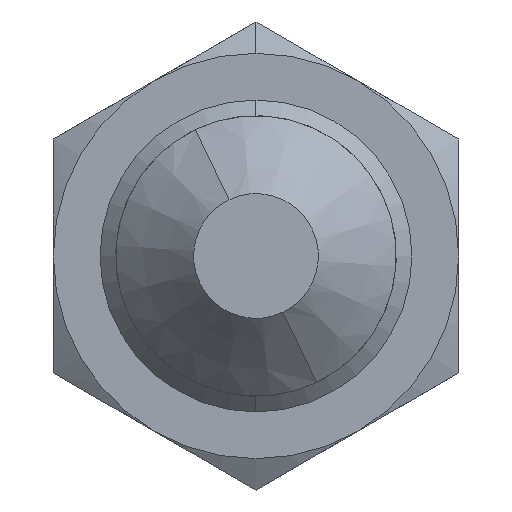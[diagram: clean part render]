
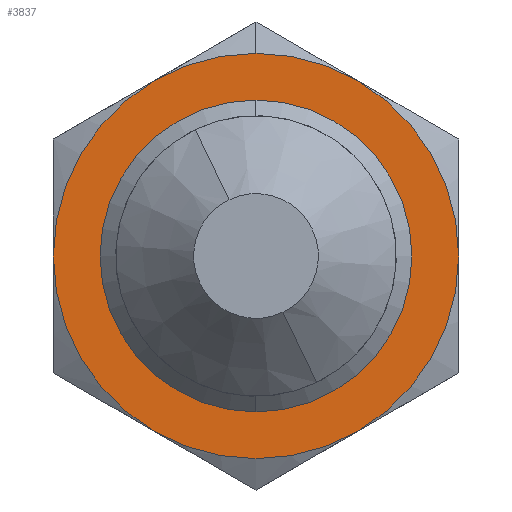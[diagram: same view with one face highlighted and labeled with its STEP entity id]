
A CAD part, left-side view. The second image highlights one B-rep face of the part: STEP entity #3837.
In plain terms, the highlighted planar face has unit normal (-1, 0, 0) as drawn and (0, 0, -1) by its records, which use the part's own axes.
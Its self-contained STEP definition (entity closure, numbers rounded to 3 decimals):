
#3245 = VERTEX_POINT ( 'NONE', #7664 ) ;
#3251 = VERTEX_POINT ( 'NONE', #7742 ) ;
#3339 = EDGE_CURVE ( 'NONE', #3544, #3393, #7891, .T. ) ;
#3340 = ORIENTED_EDGE ( 'NONE', *, *, #3392, .F. ) ;
#3352 = ORIENTED_EDGE ( 'NONE', *, *, #3339, .F. ) ;
#3362 = VERTEX_POINT ( 'NONE', #7928 ) ;
#3364 = EDGE_CURVE ( 'NONE', #3365, #3362, #7927, .T. ) ;
#3365 = VERTEX_POINT ( 'NONE', #7922 ) ;
#3383 = VERTEX_POINT ( 'NONE', #7948 ) ;
#3392 = EDGE_CURVE ( 'NONE', #3393, #3394, #8074, .T. ) ;
#3393 = VERTEX_POINT ( 'NONE', #8069 ) ;
#3394 = VERTEX_POINT ( 'NONE', #8068 ) ;
#3400 = EDGE_CURVE ( 'NONE', #3394, #3245, #8060, .T. ) ;
#3544 = VERTEX_POINT ( 'NONE', #8302 ) ;
#3672 = VERTEX_POINT ( 'NONE', #8568 ) ;
#3823 = EDGE_CURVE ( 'NONE', #3383, #3544, #8768, .T. ) ;
#3824 = ORIENTED_EDGE ( 'NONE', *, *, #3825, .F. ) ;
#3825 = EDGE_CURVE ( 'NONE', #3672, #3383, #8755, .T. ) ;
#3826 = ORIENTED_EDGE ( 'NONE', *, *, #3827, .F. ) ;
#3827 = EDGE_CURVE ( 'NONE', #3251, #3672, #8750, .T. ) ;
#3828 = ORIENTED_EDGE ( 'NONE', *, *, #3829, .F. ) ;
#3829 = EDGE_CURVE ( 'NONE', #3245, #3251, #8733, .T. ) ;
#3830 = ORIENTED_EDGE ( 'NONE', *, *, #3400, .F. ) ;
#3831 = EDGE_LOOP ( 'NONE', ( #3832, #3824, #3826, #3828, #3830, #3340, #3352 ) ) ;
#3832 = ORIENTED_EDGE ( 'NONE', *, *, #3823, .F. ) ;
#3833 = ORIENTED_EDGE ( 'NONE', *, *, #3364, .T. ) ;
#3834 = ORIENTED_EDGE ( 'NONE', *, *, #3835, .T. ) ;
#3835 = EDGE_CURVE ( 'NONE', #3362, #3365, #8728, .T. ) ;
#3836 = EDGE_LOOP ( 'NONE', ( #3833, #3834 ) ) ;
#3837 = ADVANCED_FACE ( 'NONE', ( #8723, #8722 ), #8721, .F. ) ;
#7664 = CARTESIAN_POINT ( 'NONE',  ( -11.258, -6.5, -3.5 ) ) ;
#7742 = CARTESIAN_POINT ( 'NONE',  ( 0., -13., -3.5 ) ) ;
#7886 = DIRECTION ( 'NONE',  ( 1., 0., 0. ) ) ;
#7887 = DIRECTION ( 'NONE',  ( 0., 0., 1. ) ) ;
#7888 = CARTESIAN_POINT ( 'NONE',  ( 0., 0., -3.5 ) ) ;
#7889 = AXIS2_PLACEMENT_3D ( 'NONE', #7888, #7887, #7886 ) ;
#7891 = CIRCLE ( 'NONE', #7889, 13. ) ;
#7922 = CARTESIAN_POINT ( 'NONE',  ( -10., 0., -3.5 ) ) ;
#7923 = DIRECTION ( 'NONE',  ( 1., 0., 0. ) ) ;
#7924 = DIRECTION ( 'NONE',  ( 0., 0., 1. ) ) ;
#7925 = CARTESIAN_POINT ( 'NONE',  ( 0., 0., -3.5 ) ) ;
#7926 = AXIS2_PLACEMENT_3D ( 'NONE', #7925, #7924, #7923 ) ;
#7927 = CIRCLE ( 'NONE', #7926, 10. ) ;
#7928 = CARTESIAN_POINT ( 'NONE',  ( 10., 0., -3.5 ) ) ;
#7948 = CARTESIAN_POINT ( 'NONE',  ( 11.258, 6.5, -3.5 ) ) ;
#8056 = DIRECTION ( 'NONE',  ( 1., 0., 0. ) ) ;
#8057 = DIRECTION ( 'NONE',  ( 0., 0., 1. ) ) ;
#8058 = CARTESIAN_POINT ( 'NONE',  ( 0., 0., -3.5 ) ) ;
#8059 = AXIS2_PLACEMENT_3D ( 'NONE', #8058, #8057, #8056 ) ;
#8060 = CIRCLE ( 'NONE', #8059, 13. ) ;
#8068 = CARTESIAN_POINT ( 'NONE',  ( -13., 0., -3.5 ) ) ;
#8069 = CARTESIAN_POINT ( 'NONE',  ( -11.258, 6.5, -3.5 ) ) ;
#8070 = DIRECTION ( 'NONE',  ( 1., 0., 0. ) ) ;
#8071 = DIRECTION ( 'NONE',  ( 0., 0., 1. ) ) ;
#8072 = CARTESIAN_POINT ( 'NONE',  ( 0., 0., -3.5 ) ) ;
#8073 = AXIS2_PLACEMENT_3D ( 'NONE', #8072, #8071, #8070 ) ;
#8074 = CIRCLE ( 'NONE', #8073, 13. ) ;
#8302 = CARTESIAN_POINT ( 'NONE',  ( 0., 13., -3.5 ) ) ;
#8568 = CARTESIAN_POINT ( 'NONE',  ( 11.258, -6.5, -3.5 ) ) ;
#8716 = DIRECTION ( 'NONE',  ( 1., 0., 0. ) ) ;
#8717 = DIRECTION ( 'NONE',  ( 0., 0., 1. ) ) ;
#8718 = CARTESIAN_POINT ( 'NONE',  ( 7.506, 13., -3.5 ) ) ;
#8720 = AXIS2_PLACEMENT_3D ( 'NONE', #8718, #8717, #8716 ) ;
#8721 = PLANE ( 'NONE',  #8720 ) ;
#8722 = FACE_OUTER_BOUND ( 'NONE', #3831, .T. ) ;
#8723 = FACE_BOUND ( 'NONE', #3836, .T. ) ;
#8724 = DIRECTION ( 'NONE',  ( 1., 0., 0. ) ) ;
#8725 = DIRECTION ( 'NONE',  ( 0., 0., 1. ) ) ;
#8726 = CARTESIAN_POINT ( 'NONE',  ( 0., 0., -3.5 ) ) ;
#8727 = AXIS2_PLACEMENT_3D ( 'NONE', #8726, #8725, #8724 ) ;
#8728 = CIRCLE ( 'NONE', #8727, 10. ) ;
#8729 = DIRECTION ( 'NONE',  ( 1., 0., 0. ) ) ;
#8730 = DIRECTION ( 'NONE',  ( 0., 0., 1. ) ) ;
#8731 = CARTESIAN_POINT ( 'NONE',  ( 0., 0., -3.5 ) ) ;
#8732 = AXIS2_PLACEMENT_3D ( 'NONE', #8731, #8730, #8729 ) ;
#8733 = CIRCLE ( 'NONE', #8732, 13. ) ;
#8746 = DIRECTION ( 'NONE',  ( 1., 0., 0. ) ) ;
#8747 = DIRECTION ( 'NONE',  ( 0., 0., 1. ) ) ;
#8748 = CARTESIAN_POINT ( 'NONE',  ( 0., 0., -3.5 ) ) ;
#8749 = AXIS2_PLACEMENT_3D ( 'NONE', #8748, #8747, #8746 ) ;
#8750 = CIRCLE ( 'NONE', #8749, 13. ) ;
#8751 = DIRECTION ( 'NONE',  ( 1., 0., 0. ) ) ;
#8752 = DIRECTION ( 'NONE',  ( 0., 0., 1. ) ) ;
#8753 = CARTESIAN_POINT ( 'NONE',  ( 0., 0., -3.5 ) ) ;
#8754 = AXIS2_PLACEMENT_3D ( 'NONE', #8753, #8752, #8751 ) ;
#8755 = CIRCLE ( 'NONE', #8754, 13. ) ;
#8756 = DIRECTION ( 'NONE',  ( 1., 0., 0. ) ) ;
#8757 = DIRECTION ( 'NONE',  ( 0., 0., 1. ) ) ;
#8766 = CARTESIAN_POINT ( 'NONE',  ( 0., 0., -3.5 ) ) ;
#8767 = AXIS2_PLACEMENT_3D ( 'NONE', #8766, #8757, #8756 ) ;
#8768 = CIRCLE ( 'NONE', #8767, 13. ) ;
